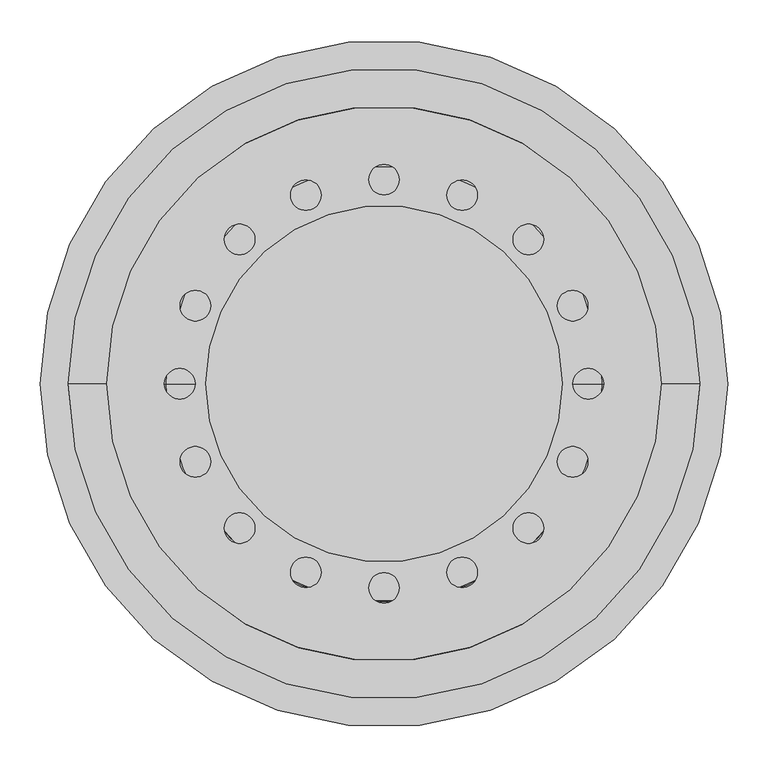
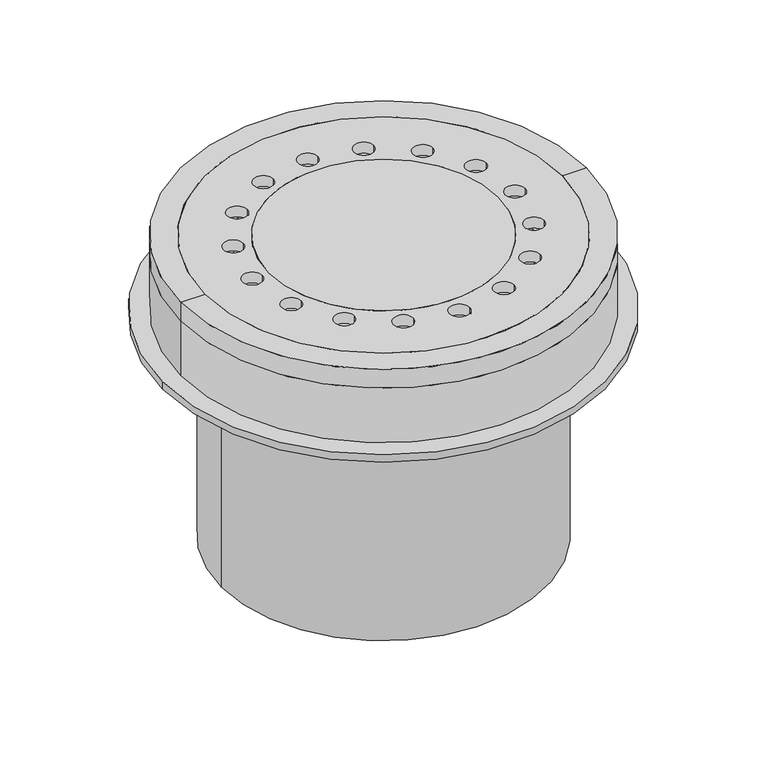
"""IFC4 building model written with IfcOpenShell, lengths in millimetres: proxy geometry, GRAF Tele Ventilation Shaft Lorry : Ventilation Shaft Lorry."""

import ifcopenshell
import ifcopenshell.guid

model = None  # the IFC model being written
_history = None  # IfcOwnerHistory: only IFC2X3 demands one
_inside = {}  # id of a spatial element -> (the spatial element, [elements in it])
_under = {}  # id of a project, library or spatial element -> (it, [spatial elements below it])
_declared = {}  # id of a project -> (the project, [libraries it declares])
_typed = {}  # id of a type object -> (the type object, [elements of that type])
_made_of = {}  # id of a material, layer set ... -> (it, [elements and type objects made of it])


def new_model(schema):
    """Start an empty IFC model of exactly this schema.

    Asked for "IFC4X3", IfcOpenShell would pick the latest addendum, in which some entities
    have other attributes; the version numbers below select the first issue.
    IFC2X3 requires an IfcOwnerHistory on every rooted entity: one is made here for all.
    """
    global model, _history
    if schema == "IFC4X3":
        model = ifcopenshell.file(schema_version=(4, 3, 0, 0))
    else:
        model = ifcopenshell.file(schema=schema)
    _inside.clear()
    _under.clear()
    _declared.clear()
    _typed.clear()
    _made_of.clear()
    _history = None
    if model.schema == "IFC2X3":
        org = make("IfcOrganization", Name="unknown")
        user = make(
            "IfcPersonAndOrganization",
            ThePerson=make("IfcPerson", FamilyName="unknown"),
            TheOrganization=org,
        )
        app = make(
            "IfcApplication",
            ApplicationDeveloper=org,
            Version="unknown",
            ApplicationFullName="unknown",
            ApplicationIdentifier="unknown",
        )
        _history = make(
            "IfcOwnerHistory",
            OwningUser=user,
            OwningApplication=app,
            ChangeAction="ADDED",
            CreationDate=0,
        )
    return model


def make(cls, **values):
    """One entity of the class cls with the attributes given. An attribute that is None is left unset."""
    return model.create_entity(
        cls, **{name: value for name, value in values.items() if value is not None}
    )


def rooted(cls, **values):
    """An entity with a GlobalId (a new one), such as an element, a storey or a relation."""
    return make(cls, GlobalId=ifcopenshell.guid.new(), OwnerHistory=_history, **values)


def si_unit(unit_type, name, prefix=None):
    """IfcSIUnit, for example si_unit("LENGTHUNIT", "METRE", prefix="MILLI")."""
    return make("IfcSIUnit", UnitType=unit_type, Prefix=prefix, Name=name)


def assignment(units):
    """IfcUnitAssignment: the units of a project."""
    return None if units is None else make("IfcUnitAssignment", Units=units)


def point(xyz):
    """IfcCartesianPoint."""
    return None if xyz is None else make("IfcCartesianPoint", Coordinates=xyz)


def direction(xyz):
    """IfcDirection."""
    return None if xyz is None else make("IfcDirection", DirectionRatios=xyz)


def frame(location, z_axis=None, x_axis=None):
    """IfcAxis2Placement3D, a coordinate frame: its origin and axes. An axis left out is left unset."""
    return make(
        "IfcAxis2Placement3D",
        Location=point(location),
        Axis=direction(z_axis),
        RefDirection=direction(x_axis),
    )


def frame_2d(location, x_axis=None):
    """IfcAxis2Placement2D, a coordinate frame in the plane: its origin and x axis."""
    return make(
        "IfcAxis2Placement2D", Location=point(location), RefDirection=direction(x_axis)
    )


def origin():
    """The frame at (0, 0, 0) with its axes left unset."""
    return frame((0.0, 0.0, 0.0))


def origin_2d():
    """The frame at (0, 0) in the plane with its x axis left unset."""
    return frame_2d((0.0, 0.0))


def place(relative_to, where):
    """IfcLocalPlacement: puts the frame where relative to a parent placement (None: the world)."""
    return make(
        "IfcLocalPlacement", PlacementRelTo=relative_to, RelativePlacement=where
    )


def context(
    kind, dimensions, precision=None, world=None, true_north=None, identifier=None
):
    """IfcGeometricRepresentationContext, for example the 3D "Model" context."""
    return make(
        "IfcGeometricRepresentationContext",
        ContextIdentifier=identifier,
        ContextType=kind,
        CoordinateSpaceDimension=dimensions,
        Precision=precision,
        WorldCoordinateSystem=world,
        TrueNorth=true_north,
    )


def project(units=None, contexts=None):
    """IfcProject with its units and contexts."""
    return rooted(
        "IfcProject",
        Name="project",
        RepresentationContexts=contexts,
        UnitsInContext=assignment(units),
    )


def spatial(cls, under=None, at=None, **own):
    """A site, building, storey or space (cls), placed at a placement, below another one or the project."""
    s = rooted(cls, ObjectPlacement=at, **own)
    if under is not None:
        _under.setdefault(under.id(), (under, []))[1].append(s)
    return s


def polyline(points):
    """IfcPolyline through the points."""
    return make("IfcPolyline", Points=[point(p) for p in points])


def circle_curve(where, radius):
    """IfcCircle in the frame where."""
    return make("IfcCircle", Position=where, Radius=radius)


def trimmed(basis, trim1, trim2, sense, master):
    """IfcTrimmedCurve: the piece of a basis curve between two trims."""
    return make(
        "IfcTrimmedCurve",
        BasisCurve=basis,
        Trim1=trim1,
        Trim2=trim2,
        SenseAgreement=sense,
        MasterRepresentation=master,
    )


def segment(curve, same_sense, transition):
    """IfcCompositeCurveSegment."""
    return make(
        "IfcCompositeCurveSegment",
        Transition=transition,
        SameSense=same_sense,
        ParentCurve=curve,
    )


def composite_curve(segments, self_intersect=None):
    """IfcCompositeCurve: segments joined end to end."""
    return make("IfcCompositeCurve", Segments=segments, SelfIntersect=self_intersect)


def outline(outer, holes=None, kind="AREA"):
    """IfcArbitraryClosedProfileDef: a profile drawn as a closed curve; with holes, ...WithVoids."""
    if holes is None:
        return make("IfcArbitraryClosedProfileDef", ProfileType=kind, OuterCurve=outer)
    return make(
        "IfcArbitraryProfileDefWithVoids",
        ProfileType=kind,
        OuterCurve=outer,
        InnerCurves=holes,
    )


def extrude(swept, where, along, depth):
    """IfcExtrudedAreaSolid: the profile swept, set in the frame where, extruded along a direction by depth."""
    return make(
        "IfcExtrudedAreaSolid",
        SweptArea=swept,
        Position=where,
        ExtrudedDirection=direction(along),
        Depth=depth,
    )


def shape(context_of_items, identifier, shape_type, items):
    """IfcShapeRepresentation: the items that make up one representation, for example the "Body"."""
    return make(
        "IfcShapeRepresentation",
        ContextOfItems=context_of_items,
        RepresentationIdentifier=identifier,
        RepresentationType=shape_type,
        Items=items,
    )


def source(mapping_origin, context_of_items, identifier, shape_type, items):
    """IfcRepresentationMap: a shape defined once, which mapped items show again and again."""
    return make(
        "IfcRepresentationMap",
        MappingOrigin=mapping_origin,
        MappedRepresentation=shape(context_of_items, identifier, shape_type, items),
    )


def transform(
    local_origin,
    x_axis=None,
    y_axis=None,
    z_axis=None,
    scale=None,
    scale2=None,
    scale3=None,
    uniform=True,
):
    """IfcCartesianTransformationOperator3D, or its non-uniform kind. x_axis, y_axis, z_axis: its Axis1, 2, 3."""
    if uniform:
        return make(
            "IfcCartesianTransformationOperator3D",
            Axis1=direction(x_axis),
            Axis2=direction(y_axis),
            LocalOrigin=point(local_origin),
            Scale=scale,
            Axis3=direction(z_axis),
        )
    return make(
        "IfcCartesianTransformationOperator3DnonUniform",
        Axis1=direction(x_axis),
        Axis2=direction(y_axis),
        LocalOrigin=point(local_origin),
        Scale=scale,
        Axis3=direction(z_axis),
        Scale2=scale2,
        Scale3=scale3,
    )


def mapped(mapping_source, mapping_target):
    """IfcMappedItem: shows the shape of a source again, moved by a transform."""
    return make(
        "IfcMappedItem", MappingSource=mapping_source, MappingTarget=mapping_target
    )


def made_of(thing, what):
    """Note that an element or type object is made of a material, layer set ...; save() writes the relation."""
    if what is not None:
        _made_of.setdefault(what.id(), (what, []))[1].append(thing)
    return thing


def element(
    cls,
    number,
    at=None,
    inside=None,
    cuts=None,
    type_object=None,
    material=None,
    context=None,
    identifier="Body",
    shape_type=None,
    held_by="IfcProductDefinitionShape",
    body=None,
    shapes=None,
    **own,
):
    """One element of the class cls, such as IfcWall. Its Tag is "e" and its number.

    at: its placement. inside: the storey or other place that contains it. cuts: it is an
    opening in that element (IfcRelVoidsElement). A single representation is given by context,
    identifier, shape_type and body (its items); several are given by shapes. held_by: the class
    of the entity that holds the representations. save() writes the other relations.
    """
    e = rooted(cls, Tag="e%d" % number, ObjectPlacement=at, **own)
    if body is not None:
        shapes = [shape(context, identifier, shape_type, body)]
    if shapes is not None:
        e.Representation = make(held_by, Representations=shapes)
    if inside is not None:
        _inside.setdefault(inside.id(), (inside, []))[1].append(e)
    if cuts is not None:
        rooted(
            "IfcRelVoidsElement", RelatingBuildingElement=cuts, RelatedOpeningElement=e
        )
    if type_object is not None:
        _typed.setdefault(type_object.id(), (type_object, []))[1].append(e)
    return made_of(e, material)


def aggregate(whole, parts):
    """IfcRelAggregates: a whole, such as a stair, and the parts it consists of."""
    return rooted("IfcRelAggregates", RelatingObject=whole, RelatedObjects=parts)


def save(model, path):
    """Write the relations noted so far, then the file.

    IfcRelAggregates (storeys below a building ...), IfcRelContainedInSpatialStructure (elements
    in a storey), IfcRelDefinesByType, IfcRelAssociatesMaterial and IfcRelDeclares: one each for
    every whole, place, type object, material and project.
    """
    for whole, parts in _under.values():
        aggregate(whole, parts)
    for where, things in _inside.values():
        rooted(
            "IfcRelContainedInSpatialStructure",
            RelatedElements=things,
            RelatingStructure=where,
        )
    for kind, things in _typed.values():
        rooted("IfcRelDefinesByType", RelatedObjects=things, RelatingType=kind)
    for what, things in _made_of.values():
        rooted("IfcRelAssociatesMaterial", RelatedObjects=things, RelatingMaterial=what)
    for by, libraries in _declared.values():
        rooted("IfcRelDeclares", RelatingContext=by, RelatedDefinitions=libraries)
    model.write(path)


def plane_surface(at):
    """IfcPlane: the flat surface through the origin of the frame at, square to its z axis."""
    return make("IfcPlane", Position=at)


def cylinder_surface(at, radius):
    """IfcCylindricalSurface: all points at the distance radius from the z axis of the frame at."""
    return make("IfcCylindricalSurface", Position=at, Radius=radius)


def revolved_surface(curve, axis_point, axis_direction):
    """IfcSurfaceOfRevolution: the curve turned about the line through axis_point along axis_direction."""
    return make(
        "IfcSurfaceOfRevolution",
        SweptCurve=make("IfcArbitraryOpenProfileDef", ProfileType="CURVE", Curve=curve),
        AxisPosition=make("IfcAxis1Placement", Location=point(axis_point), Axis=direction(axis_direction)),
    )


def advanced_brep(points, edges, surfaces, faces):
    """IfcAdvancedBrep: a solid bounded by faces that lie on surfaces and meet in shared edges.

    An edge is (start, end): straight between two places in points (the first is 0);
    or (start, end, curve); or (start, end, curve, False) where it runs against its curve.
    A face is (place in surfaces, loops), or (place, loops, False) where it looks against
    its surface's normal. A loop lists edges by number (the first is 1), with a minus sign
    where the edge is run from its end to its start. The first loop is the outer one.
    """
    corners = [point(p) for p in points]
    vertices = [make("IfcVertexPoint", VertexGeometry=c) for c in corners]
    made = []
    for start, end, *more in edges:
        made.append(
            make(
                "IfcEdgeCurve",
                EdgeStart=vertices[start],
                EdgeEnd=vertices[end],
                EdgeGeometry=more[0] if more else make("IfcPolyline", Points=[corners[start], corners[end]]),
                SameSense=more[1] if len(more) > 1 else True,
            )
        )
    hull = []
    for where, loops, *sense in faces:
        bounds = []
        for j, loop in enumerate(loops):
            ring = [make("IfcOrientedEdge", EdgeElement=made[abs(k) - 1], Orientation=k > 0) for k in loop]
            bounds.append(
                make(
                    "IfcFaceOuterBound" if j == 0 else "IfcFaceBound",
                    Bound=make("IfcEdgeLoop", EdgeList=ring),
                    Orientation=True,
                )
            )
        hull.append(make("IfcAdvancedFace", Bounds=bounds, FaceSurface=surfaces[where], SameSense=sense[0] if sense else True))
    return make("IfcAdvancedBrep", Outer=make("IfcClosedShell", CfsFaces=hull))


def specialty_equipment_1d14676d(model_context):
    return source(origin(), model_context, "Body", "SolidModel", [
        extrude(outline(composite_curve([segment(trimmed(circle_curve(origin_2d(), 427.5), [point((-427.5, 0.0))], [point((427.5, 0.0))], False, "CARTESIAN"), True, "CONTINUOUS"), segment(trimmed(circle_curve(origin_2d(), 427.5), [point((427.5, 0.0))], [point((-427.5, 0.0))], False, "CARTESIAN"), True, "CONTINUOUS")], self_intersect=False), holes=[composite_curve([segment(trimmed(circle_curve(origin_2d(), 300.0), [point((-300.0, 0.0))], [point((300.0, 0.0))], True, "CARTESIAN"), True, "CONTINUOUS"), segment(trimmed(circle_curve(origin_2d(), 300.0), [point((300.0, 0.0))], [point((-300.0, 0.0))], True, "CARTESIAN"), True, "CONTINUOUS")], self_intersect=False)]), frame((0.0, 0.0, -164.9500624), z_axis=(0.0, 0.0, 1.0), x_axis=(1.0, 0.0, 0.0)), (0.0, 0.0, 1.0), 14.9500624),
        extrude(outline(composite_curve([segment(trimmed(circle_curve(origin_2d(), 313.0), [point((-313.0, 0.0))], [point((313.0, 0.0))], False, "CARTESIAN"), True, "CONTINUOUS"), segment(trimmed(circle_curve(origin_2d(), 313.0), [point((313.0, 0.0))], [point((-313.0, 0.0))], False, "CARTESIAN"), True, "CONTINUOUS")], self_intersect=False), holes=[composite_curve([segment(trimmed(circle_curve(origin_2d(), 300.0), [point((-300.0, 0.0))], [point((300.0, 0.0))], True, "CARTESIAN"), True, "CONTINUOUS"), segment(trimmed(circle_curve(origin_2d(), 300.0), [point((300.0, 0.0))], [point((-300.0, 0.0))], True, "CARTESIAN"), True, "CONTINUOUS")], self_intersect=False)]), frame((0.0, 0.0, -610.0), z_axis=(0.0, 0.0, 1.0), x_axis=(1.0, 0.0, 0.0)), (0.0, 0.0, 1.0), 445.0499376),
        extrude(outline(composite_curve([segment(trimmed(circle_curve(origin_2d(), 427.5), [point((-427.5, 0.0))], [point((427.5, 0.0))], False, "CARTESIAN"), True, "CONTINUOUS"), segment(trimmed(circle_curve(origin_2d(), 427.5), [point((427.5, 0.0))], [point((-427.5, 0.0))], False, "CARTESIAN"), True, "CONTINUOUS")], self_intersect=False), holes=[composite_curve([segment(trimmed(circle_curve(origin_2d(), 300.0), [point((-300.0, 0.0))], [point((300.0, 0.0))], True, "CARTESIAN"), True, "CONTINUOUS"), segment(trimmed(circle_curve(origin_2d(), 300.0), [point((300.0, 0.0))], [point((-300.0, 0.0))], True, "CARTESIAN"), True, "CONTINUOUS")], self_intersect=False)]), frame((0.0, 0.0, -164.9500624), z_axis=(0.0, 0.0, 1.0), x_axis=(1.0, 0.0, 0.0)), (0.0, 0.0, 1.0), 14.9500624),
        extrude(outline(composite_curve([segment(trimmed(circle_curve(origin_2d(), 221.5), [point((-221.5, 0.0))], [point((221.5, 0.0))], False, "CARTESIAN"), True, "CONTINUOUS"), segment(trimmed(circle_curve(origin_2d(), 221.5), [point((221.5, 0.0))], [point((-221.5, 0.0))], False, "CARTESIAN"), True, "CONTINUOUS")], self_intersect=False)), frame((0.0, 0.0, -21.8781268), z_axis=(0.0, 0.0, 1.0), x_axis=(1.0, 0.0, 0.0)), (0.0, 0.0, 1.0), 21.8781268),
        extrude(outline(composite_curve([segment(trimmed(circle_curve(origin_2d(), 345.0), [point((-345.0, 0.0))], [point((345.0, 0.0))], False, "CARTESIAN"), True, "CONTINUOUS"), segment(trimmed(circle_curve(origin_2d(), 345.0), [point((345.0, 0.0))], [point((-345.0, 0.0))], False, "CARTESIAN"), True, "CONTINUOUS")], self_intersect=False), holes=[composite_curve([segment(trimmed(circle_curve(origin_2d(), 221.5), [point((-221.5, 0.0))], [point((221.5, 0.0))], True, "CARTESIAN"), True, "CONTINUOUS"), segment(trimmed(circle_curve(origin_2d(), 221.5), [point((221.5, 0.0))], [point((-221.5, 0.0))], True, "CARTESIAN"), True, "CONTINUOUS")], self_intersect=False), composite_curve([segment(trimmed(circle_curve(frame_2d((-254.0, 0.0)), 19.0), [point((-273.0, 0.0))], [point((-235.0, 0.0))], True, "CARTESIAN"), True, "CONTINUOUS"), segment(trimmed(circle_curve(frame_2d((-254.0, 0.0)), 19.0), [point((-235.0, 0.0))], [point((-273.0, 0.0))], True, "CARTESIAN"), True, "CONTINUOUS")], self_intersect=False), composite_curve([segment(trimmed(circle_curve(frame_2d((-234.6654013, 97.2015918)), 19.0), [point((-253.6654013, 97.2015918))], [point((-215.6654013, 97.2015918))], True, "CARTESIAN"), True, "CONTINUOUS"), segment(trimmed(circle_curve(frame_2d((-234.6654013, 97.2015918)), 19.0), [point((-215.6654013, 97.2015918))], [point((-253.6654013, 97.2015918))], True, "CARTESIAN"), True, "CONTINUOUS")], self_intersect=False), composite_curve([segment(trimmed(circle_curve(frame_2d((-179.6051224, 179.6051224)), 19.0), [point((-198.6051224, 179.6051224))], [point((-160.6051224, 179.6051224))], True, "CARTESIAN"), True, "CONTINUOUS"), segment(trimmed(circle_curve(frame_2d((-179.6051224, 179.6051224)), 19.0), [point((-160.6051224, 179.6051224))], [point((-198.6051224, 179.6051224))], True, "CARTESIAN"), True, "CONTINUOUS")], self_intersect=False), composite_curve([segment(trimmed(circle_curve(frame_2d((-234.6654013, -97.2015918)), 19.0), [point((-253.6654013, -97.2015918))], [point((-215.6654013, -97.2015918))], True, "CARTESIAN"), True, "CONTINUOUS"), segment(trimmed(circle_curve(frame_2d((-234.6654013, -97.2015918)), 19.0), [point((-215.6654013, -97.2015918))], [point((-253.6654013, -97.2015918))], True, "CARTESIAN"), True, "CONTINUOUS")], self_intersect=False), composite_curve([segment(trimmed(circle_curve(frame_2d((-179.6051224, -179.6051224)), 19.0), [point((-198.6051224, -179.6051224))], [point((-160.6051224, -179.6051224))], True, "CARTESIAN"), True, "CONTINUOUS"), segment(trimmed(circle_curve(frame_2d((-179.6051224, -179.6051224)), 19.0), [point((-160.6051224, -179.6051224))], [point((-198.6051224, -179.6051224))], True, "CARTESIAN"), True, "CONTINUOUS")], self_intersect=False), composite_curve([segment(trimmed(circle_curve(frame_2d((-97.2015918, -234.6654013)), 19.0), [point((-116.2015918, -234.6654013))], [point((-78.2015918, -234.6654013))], True, "CARTESIAN"), True, "CONTINUOUS"), segment(trimmed(circle_curve(frame_2d((-97.2015918, -234.6654013)), 19.0), [point((-78.2015918, -234.6654013))], [point((-116.2015918, -234.6654013))], True, "CARTESIAN"), True, "CONTINUOUS")], self_intersect=False), composite_curve([segment(trimmed(circle_curve(frame_2d((0.0, -254.0)), 19.0), [point((-19.0, -254.0))], [point((19.0, -254.0))], True, "CARTESIAN"), True, "CONTINUOUS"), segment(trimmed(circle_curve(frame_2d((0.0, -254.0)), 19.0), [point((19.0, -254.0))], [point((-19.0, -254.0))], True, "CARTESIAN"), True, "CONTINUOUS")], self_intersect=False), composite_curve([segment(trimmed(circle_curve(frame_2d((97.2015918, -234.6654013)), 19.0), [point((78.2015918, -234.6654013))], [point((116.2015918, -234.6654013))], True, "CARTESIAN"), True, "CONTINUOUS"), segment(trimmed(circle_curve(frame_2d((97.2015918, -234.6654013)), 19.0), [point((116.2015918, -234.6654013))], [point((78.2015918, -234.6654013))], True, "CARTESIAN"), True, "CONTINUOUS")], self_intersect=False), composite_curve([segment(trimmed(circle_curve(frame_2d((179.6051224, -179.6051224)), 19.0), [point((160.6051224, -179.6051224))], [point((198.6051224, -179.6051224))], True, "CARTESIAN"), True, "CONTINUOUS"), segment(trimmed(circle_curve(frame_2d((179.6051224, -179.6051224)), 19.0), [point((198.6051224, -179.6051224))], [point((160.6051224, -179.6051224))], True, "CARTESIAN"), True, "CONTINUOUS")], self_intersect=False), composite_curve([segment(trimmed(circle_curve(frame_2d((234.6654013, -97.2015918)), 19.0), [point((215.6654013, -97.2015918))], [point((253.6654013, -97.2015918))], True, "CARTESIAN"), True, "CONTINUOUS"), segment(trimmed(circle_curve(frame_2d((234.6654013, -97.2015918)), 19.0), [point((253.6654013, -97.2015918))], [point((215.6654013, -97.2015918))], True, "CARTESIAN"), True, "CONTINUOUS")], self_intersect=False), composite_curve([segment(trimmed(circle_curve(frame_2d((254.0, 0.0)), 19.0), [point((235.0, 0.0))], [point((273.0, 0.0))], True, "CARTESIAN"), True, "CONTINUOUS"), segment(trimmed(circle_curve(frame_2d((254.0, 0.0)), 19.0), [point((273.0, 0.0))], [point((235.0, 0.0))], True, "CARTESIAN"), True, "CONTINUOUS")], self_intersect=False), composite_curve([segment(trimmed(circle_curve(frame_2d((234.6654013, 97.2015918)), 19.0), [point((215.6654013, 97.2015918))], [point((253.6654013, 97.2015918))], True, "CARTESIAN"), True, "CONTINUOUS"), segment(trimmed(circle_curve(frame_2d((234.6654013, 97.2015918)), 19.0), [point((253.6654013, 97.2015918))], [point((215.6654013, 97.2015918))], True, "CARTESIAN"), True, "CONTINUOUS")], self_intersect=False), composite_curve([segment(trimmed(circle_curve(frame_2d((179.6051224, 179.6051224)), 19.0), [point((160.6051224, 179.6051224))], [point((198.6051224, 179.6051224))], True, "CARTESIAN"), True, "CONTINUOUS"), segment(trimmed(circle_curve(frame_2d((179.6051224, 179.6051224)), 19.0), [point((198.6051224, 179.6051224))], [point((160.6051224, 179.6051224))], True, "CARTESIAN"), True, "CONTINUOUS")], self_intersect=False), composite_curve([segment(trimmed(circle_curve(frame_2d((97.2015918, 234.6654013)), 19.0), [point((78.2015918, 234.6654013))], [point((116.2015918, 234.6654013))], True, "CARTESIAN"), True, "CONTINUOUS"), segment(trimmed(circle_curve(frame_2d((97.2015918, 234.6654013)), 19.0), [point((116.2015918, 234.6654013))], [point((78.2015918, 234.6654013))], True, "CARTESIAN"), True, "CONTINUOUS")], self_intersect=False), composite_curve([segment(trimmed(circle_curve(frame_2d((0.0, 254.0)), 19.0), [point((-19.0, 254.0))], [point((19.0, 254.0))], True, "CARTESIAN"), True, "CONTINUOUS"), segment(trimmed(circle_curve(frame_2d((0.0, 254.0)), 19.0), [point((19.0, 254.0))], [point((-19.0, 254.0))], True, "CARTESIAN"), True, "CONTINUOUS")], self_intersect=False), composite_curve([segment(trimmed(circle_curve(frame_2d((-97.2015918, 234.6654013)), 19.0), [point((-116.2015918, 234.6654013))], [point((-78.2015918, 234.6654013))], True, "CARTESIAN"), True, "CONTINUOUS"), segment(trimmed(circle_curve(frame_2d((-97.2015918, 234.6654013)), 19.0), [point((-78.2015918, 234.6654013))], [point((-116.2015918, 234.6654013))], True, "CARTESIAN"), True, "CONTINUOUS")], self_intersect=False)]), frame((0.0, 0.0, -21.8781268), z_axis=(0.0, 0.0, 1.0), x_axis=(1.0, 0.0, 0.0)), (0.0, 0.0, 1.0), 21.8781268),
        advanced_brep(
        [(0.0, 0.0, -233.7273458), (-275.0411357, 0.0, -233.7273458), (275.0411357, 0.0, -233.7273458), (298.3348498, 0.0, -146.7940215), (-298.3348498, 0.0, -146.7940215), (-293.1584688, 0.0, -146.7940215), (293.1584688, 0.0, -146.7940215), (271.2045008, 0.0, -228.7273458), (-271.2045008, 0.0, -228.7273458), (0.0, 0.0, -228.7273458)],
        [
            (0, 1),
            (1, 2, circle_curve(frame((0.0, 0.0, -233.7273458), z_axis=(0.0, 0.0, -1.0), x_axis=(-1.0, 0.0, 0.0)), 275.0411357)),
            (2, 0),
            (2, 1, circle_curve(frame((0.0, 0.0, -233.7273458), z_axis=(0.0, 0.0, -1.0), x_axis=(-1.0, 0.0, 0.0)), 275.0411357)),
            (3, 4, circle_curve(frame((0.0, 0.0, -146.7940215), z_axis=(0.0, 0.0, 1.0), x_axis=(-1.0, 0.0, 0.0)), 298.3348498)),
            (4, 5),
            (5, 6, circle_curve(frame((0.0, 0.0, -146.7940215), z_axis=(0.0, 0.0, -1.0), x_axis=(-1.0, 0.0, 0.0)), 293.1584688)),
            (6, 3),
            (4, 3, circle_curve(frame((0.0, 0.0, -146.7940215), z_axis=(0.0, 0.0, 1.0), x_axis=(-1.0, 0.0, 0.0)), 298.3348498)),
            (6, 5, circle_curve(frame((0.0, 0.0, -146.7940215), z_axis=(0.0, 0.0, -1.0), x_axis=(-1.0, 0.0, 0.0)), 293.1584688)),
            (1, 4),
            (3, 2),
            (7, 8, circle_curve(frame((0.0, 0.0, -228.7273458), z_axis=(0.0, 0.0, 1.0), x_axis=(-1.0, 0.0, 0.0)), 271.2045008)),
            (8, 9),
            (9, 7),
            (8, 7, circle_curve(frame((0.0, 0.0, -228.7273458), z_axis=(0.0, 0.0, 1.0), x_axis=(-1.0, 0.0, 0.0)), 271.2045008)),
            (5, 8),
            (7, 6),
        ],
        [
            plane_surface(frame((0.0, 0.0, -233.7273458), z_axis=(0.0, 0.0, -1.0), x_axis=(-1.0, 0.0, 0.0))),
            plane_surface(frame((0.0, 0.0, -146.7940215), z_axis=(0.0, 0.0, 1.0), x_axis=(-1.0, 0.0, 0.0))),
            revolved_surface(polyline([(-298.3348498, 0.0, -146.7940215), (-275.0411357, 0.0, -233.7273458)]), (0.0, 0.0, -273.7273458), (0.0, 0.0, -1.0)),
            plane_surface(frame((0.0, 0.0, -228.7273458), z_axis=(0.0, 0.0, 1.0), x_axis=(-1.0, 0.0, 0.0))),
            revolved_surface(polyline([(-271.2045008, 0.0, -228.7273458), (-293.1584688, 0.0, -146.7940215)]), (0.0, 0.0, -273.7273458), (0.0, 0.0, -1.0)),
        ],
        [
            (0, [[1, 2, 3]]),
            (0, [[-3, 4, -1]]),
            (1, [[5, 6, 7, 8]]),
            (1, [[9, -8, 10, -6]]),
            (2, [[-2, 11, -5, 12]]),
            (2, [[-4, -12, -9, -11]]),
            (3, [[13, 14, 15]]),
            (3, [[16, -15, -14]]),
            (4, [[-7, 17, -13, 18]]),
            (4, [[-10, -18, -16, -17]]),
        ],
    ),
        advanced_brep(
        [(392.5, 0.0, -38.0), (-392.5, 0.0, -38.0), (-392.5, 0.0, 0.0), (392.5, 0.0, 0.0), (345.414625, 0.0, -38.0), (-345.414625, 0.0, -38.0), (-345.414625, 0.0, 0.0), (345.414625, 0.0, 0.0)],
        [
            (0, 1, circle_curve(frame((0.0, 0.0, -38.0), z_axis=(0.0, 0.0, 1.0), x_axis=(-1.0, 0.0, 0.0)), 392.5)),
            (1, 2),
            (2, 3, circle_curve(frame((0.0, 0.0, 0.0), z_axis=(0.0, 0.0, -1.0), x_axis=(-1.0, 0.0, 0.0)), 392.5)),
            (3, 0),
            (1, 0, circle_curve(frame((0.0, 0.0, -38.0), z_axis=(0.0, 0.0, 1.0), x_axis=(-1.0, 0.0, 0.0)), 392.5)),
            (3, 2, circle_curve(frame((0.0, 0.0, 0.0), z_axis=(0.0, 0.0, -1.0), x_axis=(-1.0, 0.0, 0.0)), 392.5)),
            (4, 5, circle_curve(frame((0.0, 0.0, -38.0), z_axis=(0.0, 0.0, 1.0), x_axis=(-1.0, 0.0, 0.0)), 345.414625)),
            (5, 1),
            (0, 4),
            (5, 4, circle_curve(frame((0.0, 0.0, -38.0), z_axis=(0.0, 0.0, 1.0), x_axis=(-1.0, 0.0, 0.0)), 345.414625)),
            (2, 6),
            (6, 7, circle_curve(frame((0.0, 0.0, 0.0), z_axis=(0.0, 0.0, -1.0), x_axis=(-1.0, 0.0, 0.0)), 345.414625)),
            (7, 3),
            (7, 6, circle_curve(frame((0.0, 0.0, 0.0), z_axis=(0.0, 0.0, -1.0), x_axis=(-1.0, 0.0, 0.0)), 345.414625)),
            (6, 5),
            (4, 7),
        ],
        [
            cylinder_surface(frame((0.0, 0.0, 417.0), z_axis=(0.0, 0.0, -1.0), x_axis=(-1.0, 0.0, 0.0)), 392.5),
            plane_surface(frame((0.0, 0.0, -38.0), z_axis=(0.0, 0.0, -1.0), x_axis=(-1.0, 0.0, 0.0))),
            plane_surface(frame((0.0, 0.0, 0.0), z_axis=(0.0, 0.0, 1.0), x_axis=(-1.0, 0.0, 0.0))),
            revolved_surface(polyline([(-345.414625, 0.0, -38.0), (-345.414625, 0.0, 0.0)]), (0.0, 0.0, 417.0), (0.0, 0.0, -1.0)),
        ],
        [
            (0, [[1, 2, 3, 4]]),
            (0, [[5, -4, 6, -2]]),
            (1, [[7, 8, -1, 9]]),
            (1, [[10, -9, -5, -8]]),
            (2, [[-3, 11, 12, 13]]),
            (2, [[-6, -13, 14, -11]]),
            (3, [[-12, 15, -7, 16]]),
            (3, [[-14, -16, -10, -15]]),
        ],
    ),
        advanced_brep(
        [(392.5, 0.0, -150.0), (-392.5, 0.0, -150.0), (-392.5, 0.0, -38.0), (392.5, 0.0, -38.0), (313.9173801, 0.0, -150.0), (-313.9173801, 0.0, -150.0), (313.9173801, 0.0, -119.9866175), (-313.9173801, 0.0, -119.9866175), (328.9173801, 0.0, -119.9866175), (-328.9173801, 0.0, -119.9866175), (345.414625, 0.0, -38.0), (-345.414625, 0.0, -38.0)],
        [
            (0, 1, circle_curve(frame((0.0, 0.0, -150.0), z_axis=(0.0, 0.0, 1.0), x_axis=(-1.0, 0.0, 0.0)), 392.5)),
            (1, 2),
            (2, 3, circle_curve(frame((0.0, 0.0, -38.0), z_axis=(0.0, 0.0, -1.0), x_axis=(-1.0, 0.0, 0.0)), 392.5)),
            (3, 0),
            (1, 0, circle_curve(frame((0.0, 0.0, -150.0), z_axis=(0.0, 0.0, 1.0), x_axis=(-1.0, 0.0, 0.0)), 392.5)),
            (3, 2, circle_curve(frame((0.0, 0.0, -38.0), z_axis=(0.0, 0.0, -1.0), x_axis=(-1.0, 0.0, 0.0)), 392.5)),
            (4, 5, circle_curve(frame((0.0, 0.0, -150.0), z_axis=(0.0, 0.0, 1.0), x_axis=(-1.0, 0.0, 0.0)), 313.9173801)),
            (5, 1),
            (0, 4),
            (5, 4, circle_curve(frame((0.0, 0.0, -150.0), z_axis=(0.0, 0.0, 1.0), x_axis=(-1.0, 0.0, 0.0)), 313.9173801)),
            (6, 7, circle_curve(frame((0.0, 0.0, -119.9866175), z_axis=(0.0, 0.0, 1.0), x_axis=(-1.0, 0.0, 0.0)), 313.9173801)),
            (7, 5),
            (4, 6),
            (7, 6, circle_curve(frame((0.0, 0.0, -119.9866175), z_axis=(0.0, 0.0, 1.0), x_axis=(-1.0, 0.0, 0.0)), 313.9173801)),
            (8, 9, circle_curve(frame((0.0, 0.0, -119.9866175), z_axis=(0.0, 0.0, 1.0), x_axis=(-1.0, 0.0, 0.0)), 328.9173801)),
            (9, 7),
            (6, 8),
            (9, 8, circle_curve(frame((0.0, 0.0, -119.9866175), z_axis=(0.0, 0.0, 1.0), x_axis=(-1.0, 0.0, 0.0)), 328.9173801)),
            (10, 11, circle_curve(frame((0.0, 0.0, -38.0), z_axis=(0.0, 0.0, 1.0), x_axis=(-1.0, 0.0, 0.0)), 345.414625)),
            (11, 9),
            (8, 10),
            (11, 10, circle_curve(frame((0.0, 0.0, -38.0), z_axis=(0.0, 0.0, 1.0), x_axis=(-1.0, 0.0, 0.0)), 345.414625)),
            (2, 11),
            (10, 3),
        ],
        [
            cylinder_surface(frame((0.0, 0.0, 340.0), z_axis=(0.0, 0.0, -1.0), x_axis=(-1.0, 0.0, 0.0)), 392.5),
            plane_surface(frame((0.0, 0.0, -150.0), z_axis=(0.0, 0.0, -1.0), x_axis=(-1.0, 0.0, 0.0))),
            revolved_surface(polyline([(-313.9173801, 0.0, -150.0), (-313.9173801, 0.0, -119.98661749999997)]), (0.0, 0.0, 340.0), (0.0, 0.0, -1.0)),
            plane_surface(frame((0.0, 0.0, -119.9866175), z_axis=(0.0, 0.0, 1.0), x_axis=(-1.0, 0.0, 0.0))),
            revolved_surface(polyline([(-328.9173801, 0.0, -119.9866175), (-345.414625, 0.0, -38.0)]), (0.0, 0.0, 340.0), (0.0, 0.0, -1.0)),
            plane_surface(frame((0.0, 0.0, -38.0), z_axis=(0.0, 0.0, 1.0), x_axis=(-1.0, 0.0, 0.0))),
        ],
        [
            (0, [[1, 2, 3, 4]]),
            (0, [[5, -4, 6, -2]]),
            (1, [[7, 8, -1, 9]]),
            (1, [[10, -9, -5, -8]]),
            (2, [[11, 12, -7, 13]]),
            (2, [[14, -13, -10, -12]]),
            (3, [[15, 16, -11, 17]]),
            (3, [[18, -17, -14, -16]]),
            (4, [[19, 20, -15, 21]]),
            (4, [[22, -21, -18, -20]]),
            (5, [[-3, 23, -19, 24]]),
            (5, [[-6, -24, -22, -23]]),
        ],
    ),
        extrude(outline(polyline([(0.0, 0.0), (103.6001835, 0.0), (97.7366644, -23.939106), (0.0, 0.0)])), frame((-395.4623133, -121.3292977, -164.9500624), z_axis=(-0.2817325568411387, 0.959492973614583, 0.0), x_axis=(0.9319450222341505, 0.27364374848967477, -0.2379024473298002)), (0.0, 0.0, 1.0), 10.0),
        extrude(outline(polyline([(100.6257242, 0.0), (0.0, -24.6467372), (0.0, 0.0), (100.6257242, 0.0)])), frame((-201.1926619, -239.8239204, -164.9500624), z_axis=(-0.7557495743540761, 0.6548607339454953, 0.0), x_axis=(-0.6548607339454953, -0.7557495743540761, 0.0)), (0.0, 0.0, 1.0), 10.0),
        extrude(outline(polyline([(42.0990731, 0.0), (42.0990731, -100.6257242), (17.0491355, 0.0), (42.0990731, 0.0)])), frame((-260.6091517, -173.4268435, -207.0491355), z_axis=(-0.5406408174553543, 0.8412535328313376, 0.0), x_axis=(0.0, 0.0, 1.0)), (0.0, 0.0, 1.0), 10.0),
        extrude(outline(polyline([(42.0990731, 0.0), (42.0990731, -100.6257242), (17.0491355, 0.0), (42.0990731, 0.0)])), frame((-125.4767391, -286.7918896, -207.0491355), z_axis=(-0.9096319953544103, 0.41541501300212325, 0.0), x_axis=(0.0, 0.0, 1.0)), (0.0, 0.0, 1.0), 10.0),
        extrude(outline(polyline([(0.0, 0.0), (103.6001836, 0.0), (97.7366645, -23.9391061), (0.0, 0.0)])), frame((-53.9159708, -410.127185, -164.9500624), z_axis=(-0.989821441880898, 0.14231483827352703, 0.0), x_axis=(0.1382288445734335, 0.9614027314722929, -0.23790244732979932)), (0.0, 0.0, 1.0), 10.0),
        extrude(outline(polyline([(-164.9500624, 413.6257242), (-164.9500624, 313.0), (-189.5967996, 313.0), (-164.9500624, 413.6257242)])), frame((0.0, -5.0, 0.0), z_axis=(0.0, 1.0, 0.0), x_axis=(0.0, 0.0, 1.0)), (0.0, 0.0, 1.0), 10.0),
        extrude(outline(polyline([(-42.0990731, 0.0), (-17.0491355, 0.0), (-42.0990731, -100.6257243), (-42.0990731, 0.0)])), frame((301.7299635, 83.3848254, -207.0491355), z_axis=(-0.2817325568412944, 0.9594929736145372, 0.0), x_axis=(0.0, 0.0, -1.0)), (0.0, 0.0, 1.0), 10.0),
        extrude(outline(polyline([(0.0, 0.0), (-97.7366644, -23.9391061), (-103.6001835, 0.0), (0.0, 0.0)])), frame((350.6673059, 219.416682, -164.9500624), z_axis=(-0.5406408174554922, 0.8412535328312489, 0.0), x_axis=(0.8171003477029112, 0.5251185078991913, 0.23790244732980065)), (0.0, 0.0, 1.0), 10.0),
        extrude(outline(polyline([(0.0, 0.0), (-97.7366644, -23.9391061), (-103.6001835, 0.0), (0.0, 0.0)])), frame((345.2608977, -227.8292173, -164.9500624), z_axis=(0.5406408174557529, 0.8412535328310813, 0.0), x_axis=(0.8171003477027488, -0.5251185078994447, 0.23790244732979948)), (0.0, 0.0, 1.0), 10.0),
        extrude(outline(polyline([(0.0, 0.0), (0.0, -25.0499376), (-100.6257241, 0.0), (0.0, 0.0)])), frame((298.912638, -92.9797552, -164.9500624), z_axis=(0.28173255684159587, 0.9594929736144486, 0.0), x_axis=(-0.9594929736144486, 0.28173255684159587, 0.0)), (0.0, 0.0, 1.0), 10.0),
        extrude(outline(polyline([(0.0, 0.0), (0.0, -25.0499376), (-100.6257242, 0.0), (0.0, 0.0)])), frame((201.1926619, -239.8239204, -164.9500624), z_axis=(0.7557495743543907, 0.6548607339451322, 0.0), x_axis=(-0.6548607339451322, 0.7557495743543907, 0.0)), (0.0, 0.0, 1.0), 10.0),
        extrude(outline(polyline([(-100.6257242, 0.0), (0.0, 0.0), (0.0, -24.6467372), (-100.6257242, 0.0)])), frame((125.4767391, -286.7918896, -164.9500624), z_axis=(0.9096319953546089, 0.4154150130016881, 0.0), x_axis=(-0.4154150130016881, 0.9096319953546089, 0.0)), (0.0, 0.0, 1.0), 10.0),
        extrude(outline(polyline([(-42.0990731, 0.0), (-17.0491355, 0.0), (-42.0990731, -100.6257243), (-42.0990731, 0.0)])), frame((39.5954372, -310.5256855, -207.0491355), z_axis=(0.9898214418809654, 0.14231483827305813, 0.0), x_axis=(0.0, 0.0, -1.0)), (0.0, 0.0, 1.0), 10.0),
        extrude(outline(polyline([(0.0, 0.0), (103.6001836, 0.0), (97.7366645, -23.9391061), (0.0, 0.0)])), frame((-63.8141853, 408.7040366, -164.9500624), z_axis=(0.9898214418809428, 0.1423148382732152, 0.0), x_axis=(0.13822884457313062, -0.9614027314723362, -0.23790244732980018)), (0.0, 0.0, 1.0), 10.0),
        extrude(outline(polyline([(0.0, 0.0), (0.0, -25.0499376), (-100.6257243, 0.0), (0.0, 0.0)])), frame((49.4936516, 309.1025371, -164.9500624), z_axis=(-0.9898214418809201, 0.1423148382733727, 0.0), x_axis=(-0.1423148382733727, -0.9898214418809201, 0.0)), (0.0, 0.0, 1.0), 10.0),
        extrude(outline(polyline([(-100.6257242, 0.0), (0.0, 0.0), (0.0, -24.6467372), (-100.6257242, 0.0)])), frame((134.573059, 282.6377395, -164.9500624), z_axis=(-0.909631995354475, 0.41541501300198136, 0.0), x_axis=(-0.41541501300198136, -0.909631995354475, 0.0)), (0.0, 0.0, 1.0), 10.0),
        extrude(outline(polyline([(-42.0990731, 0.0), (-17.0491355, 0.0), (-42.0990731, -100.6257242), (-42.0990731, 0.0)])), frame((208.7501576, 233.2753131, -207.0491355), z_axis=(-0.7557495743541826, 0.6548607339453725, 0.0), x_axis=(0.0, 0.0, -1.0)), (0.0, 0.0, 1.0), 10.0),
        extrude(outline(polyline([(100.6257242, 0.0), (0.0, -24.6467372), (0.0, 0.0), (100.6257242, 0.0)])), frame((-208.7501576, 233.2753131, -164.9500624), z_axis=(0.7557495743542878, 0.6548607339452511, 0.0), x_axis=(-0.6548607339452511, 0.7557495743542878, 0.0)), (0.0, 0.0, 1.0), 10.0),
        extrude(outline(polyline([(42.0990731, 0.0), (42.0990731, -100.6257242), (17.0491355, 0.0), (42.0990731, 0.0)])), frame((-134.573059, 282.6377395, -207.0491355), z_axis=(0.9096319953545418, 0.41541501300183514, 0.0), x_axis=(0.0, 0.0, 1.0)), (0.0, 0.0, 1.0), 10.0),
        extrude(outline(polyline([(42.0990731, 0.0), (42.0990731, -100.6257242), (17.0491355, 0.0), (42.0990731, 0.0)])), frame((-266.0155599, 165.0143082, -207.0491355), z_axis=(0.5406408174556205, 0.8412535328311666, 0.0), x_axis=(0.0, 0.0, 1.0)), (0.0, 0.0, 1.0), 10.0),
        extrude(outline(composite_curve([segment(trimmed(circle_curve(origin_2d(), 313.0), [point((-260.5755532, -173.4052511))], [point((-208.7240033, -233.2451295))], True, "CARTESIAN"), True, "CONTINUOUS"), segment(polyline([(-208.7240033, -233.2451295), (-225.0974564, -252.1411016)]), True, "CONTINUOUS"), segment(trimmed(circle_curve(origin_2d(), 338.0), [point((-225.0974564, -252.1411016))], [point((-281.6093769, -186.9228688))], False, "CARTESIAN"), True, "CONTINUOUS"), segment(polyline([(-281.6093769, -186.9228688), (-260.5755532, -173.4052511)]), True, "CONTINUOUS")], self_intersect=False)), frame((0.0, 0.0, -169.9500624), z_axis=(0.0, 0.0, 1.0), x_axis=(1.0, 0.0, 0.0)), (0.0, 0.0, 1.0), 5.0),
        extrude(outline(composite_curve([segment(polyline([(-265.9819613, -164.9927157), (-287.015785, -178.5103334)]), True, "CONTINUOUS"), segment(trimmed(circle_curve(origin_2d(), 338.0), [point((-287.015785, -178.5103334))], [point((-322.8644761, -100.0126494))], False, "CARTESIAN"), True, "CONTINUOUS"), segment(polyline([(-322.8644761, -100.0126494), (-298.8743171, -92.9685031)]), True, "CONTINUOUS"), segment(trimmed(circle_curve(origin_2d(), 313.0), [point((-298.8743171, -92.9685031))], [point((-265.9819613, -164.9927157))], True, "CARTESIAN"), True, "CONTINUOUS")], self_intersect=False)), frame((0.0, 0.0, -169.9500624), z_axis=(0.0, 0.0, 1.0), x_axis=(1.0, 0.0, 0.0)), (0.0, 0.0, 1.0), 5.0),
        extrude(outline(composite_curve([segment(polyline([(-312.9600613, 5.0), (-337.9630157, 5.0)]), True, "CONTINUOUS"), segment(trimmed(circle_curve(origin_2d(), 338.0), [point((-337.9630157, 5.0))], [point((-325.6818017, 90.4177197))], False, "CARTESIAN"), True, "CONTINUOUS"), segment(polyline([(-325.6818017, 90.4177197), (-301.6916427, 83.3735734)]), True, "CONTINUOUS"), segment(trimmed(circle_curve(origin_2d(), 313.0), [point((-301.6916427, 83.3735734))], [point((-312.9600613, 5.0))], True, "CARTESIAN"), True, "CONTINUOUS")], self_intersect=False)), frame((0.0, 0.0, -169.9500624), z_axis=(0.0, 0.0, 1.0), x_axis=(1.0, 0.0, 0.0)), (0.0, 0.0, 1.0), 5.0),
        extrude(outline(composite_curve([segment(trimmed(circle_curve(origin_2d(), 313.0), [point((-312.9600613, -5.0))], [point((-301.6916427, -83.3735734))], True, "CARTESIAN"), True, "CONTINUOUS"), segment(polyline([(-301.6916427, -83.3735734), (-325.6818017, -90.4177197)]), True, "CONTINUOUS"), segment(trimmed(circle_curve(origin_2d(), 338.0), [point((-325.6818017, -90.4177197))], [point((-337.9630157, -5.0))], False, "CARTESIAN"), True, "CONTINUOUS"), segment(polyline([(-337.9630157, -5.0), (-312.9600613, -5.0)]), True, "CONTINUOUS")], self_intersect=False)), frame((0.0, 0.0, -169.9500624), z_axis=(0.0, 0.0, 1.0), x_axis=(1.0, 0.0, 0.0)), (0.0, 0.0, 1.0), 5.0),
        extrude(outline(composite_curve([segment(trimmed(circle_curve(origin_2d(), 313.0), [point((-265.9819613, 164.9927157))], [point((-298.8743171, 92.9685031))], True, "CARTESIAN"), True, "CONTINUOUS"), segment(polyline([(-298.8743171, 92.9685031), (-322.8644761, 100.0126494)]), True, "CONTINUOUS"), segment(trimmed(circle_curve(origin_2d(), 338.0), [point((-322.8644761, 100.0126494))], [point((-287.015785, 178.5103334))], False, "CARTESIAN"), True, "CONTINUOUS"), segment(polyline([(-287.015785, 178.5103334), (-265.9819613, 164.9927157)]), True, "CONTINUOUS")], self_intersect=False)), frame((0.0, 0.0, -169.9500624), z_axis=(0.0, 0.0, 1.0), x_axis=(1.0, 0.0, 0.0)), (0.0, 0.0, 1.0), 5.0),
        extrude(outline(composite_curve([segment(polyline([(-260.5755532, 173.4052511), (-281.6093769, 186.9228688)]), True, "CONTINUOUS"), segment(trimmed(circle_curve(origin_2d(), 338.0), [point((-281.6093769, 186.9228688))], [point((-225.0974564, 252.1411016))], False, "CARTESIAN"), True, "CONTINUOUS"), segment(polyline([(-225.0974564, 252.1411016), (-208.7240033, 233.2451295)]), True, "CONTINUOUS"), segment(trimmed(circle_curve(origin_2d(), 313.0), [point((-208.7240033, 233.2451295))], [point((-260.5755532, 173.4052511))], True, "CARTESIAN"), True, "CONTINUOUS")], self_intersect=False)), frame((0.0, 0.0, -169.9500624), z_axis=(0.0, 0.0, 1.0), x_axis=(1.0, 0.0, 0.0)), (0.0, 0.0, 1.0), 5.0),
        extrude(outline(composite_curve([segment(polyline([(208.7240033, 233.2451295), (225.0974564, 252.1411016)]), True, "CONTINUOUS"), segment(trimmed(circle_curve(origin_2d(), 338.0), [point((225.0974564, 252.1411016))], [point((281.6093769, 186.9228688))], False, "CARTESIAN"), True, "CONTINUOUS"), segment(polyline([(281.6093769, 186.9228688), (260.5755532, 173.4052511)]), True, "CONTINUOUS"), segment(trimmed(circle_curve(origin_2d(), 313.0), [point((260.5755532, 173.4052511))], [point((208.7240033, 233.2451295))], True, "CARTESIAN"), True, "CONTINUOUS")], self_intersect=False)), frame((0.0, 0.0, -169.9500624), z_axis=(0.0, 0.0, 1.0), x_axis=(1.0, 0.0, 0.0)), (0.0, 0.0, 1.0), 5.0),
        extrude(outline(composite_curve([segment(trimmed(circle_curve(origin_2d(), 313.0), [point((201.1665076, 239.7937368))], [point((134.5564679, 282.60141))], True, "CARTESIAN"), True, "CONTINUOUS"), segment(polyline([(134.5564679, 282.60141), (144.9430705, 305.3448973)]), True, "CONTINUOUS"), segment(trimmed(circle_curve(origin_2d(), 338.0), [point((144.9430705, 305.3448973))], [point((217.5399607, 258.689709))], False, "CARTESIAN"), True, "CONTINUOUS"), segment(polyline([(217.5399607, 258.689709), (201.1665076, 239.7937368)]), True, "CONTINUOUS")], self_intersect=False)), frame((0.0, 0.0, -169.9500624), z_axis=(0.0, 0.0, 1.0), x_axis=(1.0, 0.0, 0.0)), (0.0, 0.0, 1.0), 5.0),
        extrude(outline(composite_curve([segment(trimmed(circle_curve(origin_2d(), 313.0), [point((39.5897533, 310.4861534))], [point((-39.5897533, 310.4861534))], True, "CARTESIAN"), True, "CONTINUOUS"), segment(polyline([(-39.5897533, 310.4861534), (-43.1480447, 335.2346137)]), True, "CONTINUOUS"), segment(trimmed(circle_curve(origin_2d(), 338.0), [point((-43.1480447, 335.2346137))], [point((43.1480447, 335.2346137))], False, "CARTESIAN"), True, "CONTINUOUS"), segment(polyline([(43.1480447, 335.2346137), (39.5897533, 310.4861534)]), True, "CONTINUOUS")], self_intersect=False)), frame((0.0, 0.0, -169.9500624), z_axis=(0.0, 0.0, 1.0), x_axis=(1.0, 0.0, 0.0)), (0.0, 0.0, 1.0), 5.0),
        extrude(outline(composite_curve([segment(polyline([(49.4879677, 309.063005), (53.0462591, 333.8114653)]), True, "CONTINUOUS"), segment(trimmed(circle_curve(origin_2d(), 338.0), [point((53.0462591, 333.8114653))], [point((135.8467506, 309.4990474))], False, "CARTESIAN"), True, "CONTINUOUS"), segment(polyline([(135.8467506, 309.4990474), (125.460148, 286.7555601)]), True, "CONTINUOUS"), segment(trimmed(circle_curve(origin_2d(), 313.0), [point((125.460148, 286.7555601))], [point((49.4879677, 309.063005))], True, "CARTESIAN"), True, "CONTINUOUS")], self_intersect=False)), frame((0.0, 0.0, -169.9500624), z_axis=(0.0, 0.0, 1.0), x_axis=(1.0, 0.0, 0.0)), (0.0, 0.0, 1.0), 5.0),
        extrude(outline(composite_curve([segment(polyline([(-125.460148, 286.7555601), (-135.8467506, 309.4990474)]), True, "CONTINUOUS"), segment(trimmed(circle_curve(origin_2d(), 338.0), [point((-135.8467506, 309.4990474))], [point((-53.0462591, 333.8114653))], False, "CARTESIAN"), True, "CONTINUOUS"), segment(polyline([(-53.0462591, 333.8114653), (-49.4879677, 309.063005)]), True, "CONTINUOUS"), segment(trimmed(circle_curve(origin_2d(), 313.0), [point((-49.4879677, 309.063005))], [point((-125.460148, 286.7555601))], True, "CARTESIAN"), True, "CONTINUOUS")], self_intersect=False)), frame((0.0, 0.0, -169.9500624), z_axis=(0.0, 0.0, 1.0), x_axis=(1.0, 0.0, 0.0)), (0.0, 0.0, 1.0), 5.0),
        extrude(outline(composite_curve([segment(trimmed(circle_curve(origin_2d(), 313.0), [point((-134.5564679, 282.60141))], [point((-201.1665076, 239.7937368))], True, "CARTESIAN"), True, "CONTINUOUS"), segment(polyline([(-201.1665076, 239.7937368), (-217.5399607, 258.689709)]), True, "CONTINUOUS"), segment(trimmed(circle_curve(origin_2d(), 338.0), [point((-217.5399607, 258.689709))], [point((-144.9430705, 305.3448973))], False, "CARTESIAN"), True, "CONTINUOUS"), segment(polyline([(-144.9430705, 305.3448973), (-134.5564679, 282.60141)]), True, "CONTINUOUS")], self_intersect=False)), frame((0.0, 0.0, -169.9500624), z_axis=(0.0, 0.0, 1.0), x_axis=(1.0, 0.0, 0.0)), (0.0, 0.0, 1.0), 5.0),
        extrude(outline(composite_curve([segment(trimmed(circle_curve(origin_2d(), 313.0), [point((298.8743171, 92.9685031))], [point((265.9819613, 164.9927157))], True, "CARTESIAN"), True, "CONTINUOUS"), segment(polyline([(265.9819613, 164.9927157), (287.015785, 178.5103334)]), True, "CONTINUOUS"), segment(trimmed(circle_curve(origin_2d(), 338.0), [point((287.015785, 178.5103334))], [point((322.8644761, 100.0126494))], False, "CARTESIAN"), True, "CONTINUOUS"), segment(polyline([(322.8644761, 100.0126494), (298.8743171, 92.9685031)]), True, "CONTINUOUS")], self_intersect=False)), frame((0.0, 0.0, -169.9500624), z_axis=(0.0, 0.0, 1.0), x_axis=(1.0, 0.0, 0.0)), (0.0, 0.0, 1.0), 5.0),
        extrude(outline(composite_curve([segment(polyline([(301.6916427, 83.3735734), (325.6818017, 90.4177197)]), True, "CONTINUOUS"), segment(trimmed(circle_curve(origin_2d(), 338.0), [point((325.6818017, 90.4177197))], [point((337.9630157, 5.0))], False, "CARTESIAN"), True, "CONTINUOUS"), segment(polyline([(337.9630157, 5.0), (312.9600613, 5.0)]), True, "CONTINUOUS"), segment(trimmed(circle_curve(origin_2d(), 313.0), [point((312.9600613, 5.0))], [point((301.6916427, 83.3735734))], True, "CARTESIAN"), True, "CONTINUOUS")], self_intersect=False)), frame((0.0, 0.0, -169.9500624), z_axis=(0.0, 0.0, 1.0), x_axis=(1.0, 0.0, 0.0)), (0.0, 0.0, 1.0), 5.0),
        extrude(outline(composite_curve([segment(polyline([(298.8743171, -92.9685031), (322.8644761, -100.0126494)]), True, "CONTINUOUS"), segment(trimmed(circle_curve(origin_2d(), 338.0), [point((322.8644761, -100.0126494))], [point((287.015785, -178.5103334))], False, "CARTESIAN"), True, "CONTINUOUS"), segment(polyline([(287.015785, -178.5103334), (265.9819613, -164.9927157)]), True, "CONTINUOUS"), segment(trimmed(circle_curve(origin_2d(), 313.0), [point((265.9819613, -164.9927157))], [point((298.8743171, -92.9685031))], True, "CARTESIAN"), True, "CONTINUOUS")], self_intersect=False)), frame((0.0, 0.0, -169.9500624), z_axis=(0.0, 0.0, 1.0), x_axis=(1.0, 0.0, 0.0)), (0.0, 0.0, 1.0), 5.0),
        extrude(outline(composite_curve([segment(trimmed(circle_curve(origin_2d(), 313.0), [point((301.6916427, -83.3735734))], [point((312.9600613, -5.0))], True, "CARTESIAN"), True, "CONTINUOUS"), segment(polyline([(312.9600613, -5.0), (337.9630157, -5.0)]), True, "CONTINUOUS"), segment(trimmed(circle_curve(origin_2d(), 338.0), [point((337.9630157, -5.0))], [point((325.6818017, -90.4177197))], False, "CARTESIAN"), True, "CONTINUOUS"), segment(polyline([(325.6818017, -90.4177197), (301.6916427, -83.3735734)]), True, "CONTINUOUS")], self_intersect=False)), frame((0.0, 0.0, -169.9500624), z_axis=(0.0, 0.0, 1.0), x_axis=(1.0, 0.0, 0.0)), (0.0, 0.0, 1.0), 5.0),
        extrude(outline(composite_curve([segment(trimmed(circle_curve(origin_2d(), 313.0), [point((208.7240033, -233.2451295))], [point((260.5755532, -173.4052511))], True, "CARTESIAN"), True, "CONTINUOUS"), segment(polyline([(260.5755532, -173.4052511), (281.6093769, -186.9228688)]), True, "CONTINUOUS"), segment(trimmed(circle_curve(origin_2d(), 338.0), [point((281.6093769, -186.9228688))], [point((225.0974564, -252.1411016))], False, "CARTESIAN"), True, "CONTINUOUS"), segment(polyline([(225.0974564, -252.1411016), (208.7240033, -233.2451295)]), True, "CONTINUOUS")], self_intersect=False)), frame((0.0, 0.0, -169.9500624), z_axis=(0.0, 0.0, 1.0), x_axis=(1.0, 0.0, 0.0)), (0.0, 0.0, 1.0), 5.0),
        extrude(outline(composite_curve([segment(polyline([(201.1665076, -239.7937368), (217.5399607, -258.689709)]), True, "CONTINUOUS"), segment(trimmed(circle_curve(origin_2d(), 338.0), [point((217.5399607, -258.689709))], [point((144.9430705, -305.3448973))], False, "CARTESIAN"), True, "CONTINUOUS"), segment(polyline([(144.9430705, -305.3448973), (134.5564679, -282.60141)]), True, "CONTINUOUS"), segment(trimmed(circle_curve(origin_2d(), 313.0), [point((134.5564679, -282.60141))], [point((201.1665076, -239.7937368))], True, "CARTESIAN"), True, "CONTINUOUS")], self_intersect=False)), frame((0.0, 0.0, -169.9500624), z_axis=(0.0, 0.0, 1.0), x_axis=(1.0, 0.0, 0.0)), (0.0, 0.0, 1.0), 5.0),
        extrude(outline(composite_curve([segment(trimmed(circle_curve(origin_2d(), 313.0), [point((-125.460148, -286.7555601))], [point((-49.4879677, -309.063005))], True, "CARTESIAN"), True, "CONTINUOUS"), segment(polyline([(-49.4879677, -309.063005), (-53.0462591, -333.8114653)]), True, "CONTINUOUS"), segment(trimmed(circle_curve(origin_2d(), 338.0), [point((-53.0462591, -333.8114653))], [point((-135.8467506, -309.4990474))], False, "CARTESIAN"), True, "CONTINUOUS"), segment(polyline([(-135.8467506, -309.4990474), (-125.460148, -286.7555601)]), True, "CONTINUOUS")], self_intersect=False)), frame((0.0, 0.0, -169.9500624), z_axis=(0.0, 0.0, 1.0), x_axis=(1.0, 0.0, 0.0)), (0.0, 0.0, 1.0), 5.0),
        extrude(outline(composite_curve([segment(polyline([(-134.5564679, -282.60141), (-144.9430705, -305.3448973)]), True, "CONTINUOUS"), segment(trimmed(circle_curve(origin_2d(), 338.0), [point((-144.9430705, -305.3448973))], [point((-217.5399607, -258.689709))], False, "CARTESIAN"), True, "CONTINUOUS"), segment(polyline([(-217.5399607, -258.689709), (-201.1665076, -239.7937368)]), True, "CONTINUOUS"), segment(trimmed(circle_curve(origin_2d(), 313.0), [point((-201.1665076, -239.7937368))], [point((-134.5564679, -282.60141))], True, "CARTESIAN"), True, "CONTINUOUS")], self_intersect=False)), frame((0.0, 0.0, -169.9500624), z_axis=(0.0, 0.0, 1.0), x_axis=(1.0, 0.0, 0.0)), (0.0, 0.0, 1.0), 5.0),
        extrude(outline(composite_curve([segment(polyline([(39.5897533, -310.4861534), (43.1480447, -335.2346137)]), True, "CONTINUOUS"), segment(trimmed(circle_curve(origin_2d(), 338.0), [point((43.1480447, -335.2346137))], [point((-43.1480447, -335.2346137))], False, "CARTESIAN"), True, "CONTINUOUS"), segment(polyline([(-43.1480447, -335.2346137), (-39.5897533, -310.4861534)]), True, "CONTINUOUS"), segment(trimmed(circle_curve(origin_2d(), 313.0), [point((-39.5897533, -310.4861534))], [point((39.5897533, -310.4861534))], True, "CARTESIAN"), True, "CONTINUOUS")], self_intersect=False)), frame((0.0, 0.0, -169.9500624), z_axis=(0.0, 0.0, 1.0), x_axis=(1.0, 0.0, 0.0)), (0.0, 0.0, 1.0), 5.0),
        extrude(outline(composite_curve([segment(trimmed(circle_curve(origin_2d(), 313.0), [point((49.4879677, -309.063005))], [point((125.460148, -286.7555601))], True, "CARTESIAN"), True, "CONTINUOUS"), segment(polyline([(125.460148, -286.7555601), (135.8467506, -309.4990474)]), True, "CONTINUOUS"), segment(trimmed(circle_curve(origin_2d(), 338.0), [point((135.8467506, -309.4990474))], [point((53.0462591, -333.8114653))], False, "CARTESIAN"), True, "CONTINUOUS"), segment(polyline([(53.0462591, -333.8114653), (49.4879677, -309.063005)]), True, "CONTINUOUS")], self_intersect=False)), frame((0.0, 0.0, -169.9500624), z_axis=(0.0, 0.0, 1.0), x_axis=(1.0, 0.0, 0.0)), (0.0, 0.0, 1.0), 5.0),
        extrude(outline(polyline([(0.0, 0.0), (103.6001836, 0.0), (97.7366645, -23.9391061), (0.0, 0.0)])), frame((-398.2796389, 111.734368, -164.9500624), z_axis=(0.2817325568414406, 0.9594929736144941, 0.0), x_axis=(0.9319450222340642, -0.273643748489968, -0.23790244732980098)), (0.0, 0.0, 1.0), 10.0),
        extrude(outline(polyline([(-164.9500624, -313.0), (-164.9500624, -413.6257242), (-190.0, -313.0), (-164.9500624, -313.0)])), frame((0.0, -5.0, 0.0), z_axis=(0.0, 1.0, 0.0), x_axis=(0.0, 0.0, 1.0)), (0.0, 0.0, 1.0), 10.0),
    ])


if __name__ == "__main__":
    model = new_model("IFC4")
    model_context = context("Model", 3, world=origin())
    ifc_project = project(units=[si_unit("LENGTHUNIT", "METRE", prefix="MILLI")], contexts=[model_context])
    site = spatial("IfcSite", under=ifc_project)
    building = spatial("IfcBuilding", under=site)
    placement = place(None, origin())
    specialty_equipment_shape = specialty_equipment_1d14676d(model_context)
    element("IfcBuildingElementProxy", 1, Name="GRAF Tele Ventilation Shaft Lorry : Ventilation Shaft Lorry", ObjectType="GRAF Tele Ventilation Shaft Lorry : Ventilation Shaft Lorry", at=placement, inside=building, context=model_context, shape_type="MappedRepresentation", body=[
        mapped(specialty_equipment_shape, transform((0.0, 0.0, 0.0), x_axis=(1.0, 0.0, 0.0), y_axis=(0.0, 1.0, 0.0), z_axis=(0.0, 0.0, 1.0))),
    ])
    save(model, "model.ifc")
